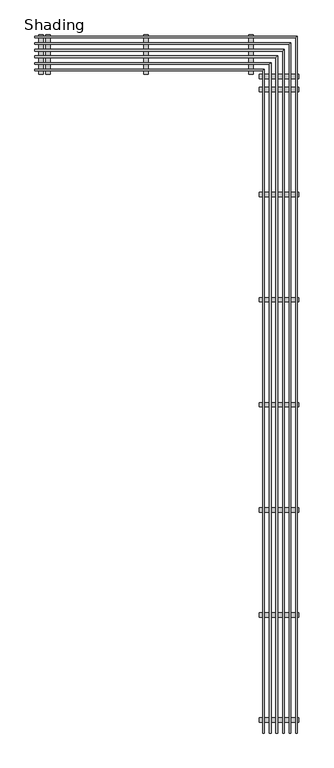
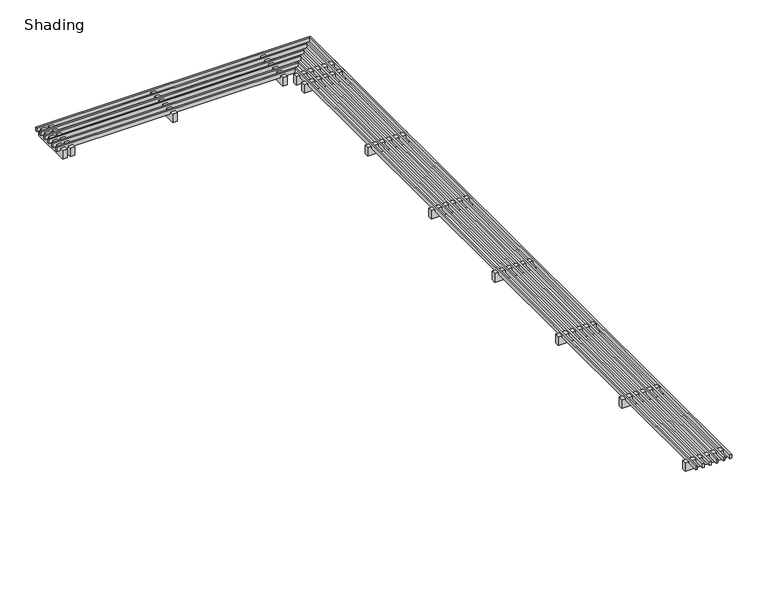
"""IFC4 building model written with IfcOpenShell, lengths in millimetres: railing geometry, Shading."""

from ifc_helpers import new_model, si_unit, frame, origin, place, context, project, spatial, polyline, outline, extrude, faceted_brep, source, transform, mapped, element, save


def shading_475ef65a(model_context):
    return source(origin(), model_context, "Body", "SolidModel", [
        faceted_brep([(941.7098336, 1511.1084583, 3092.45), (903.6098336, 1511.1084583, 3092.45), (903.6098336, 1511.1084583, 3003.55), (941.7098336, 1511.1084583, 3003.55), (941.7098336, 17684.5584583, 3003.55), (941.7098336, 17684.5584583, 3092.45), (903.6098336, 17646.4584583, 3003.55), (903.6098336, 17646.4584583, 3092.45), (-5147.9401664, 17684.5584583, 3092.45), (-5147.9401664, 17684.5584583, 3003.55), (-5147.9401664, 17646.4584583, 3003.55), (-5147.9401664, 17646.4584583, 3092.45)], [[[0, 1, 2, 3]], [[0, 3, 4, 5]], [[3, 2, 6, 4]], [[2, 1, 7, 6]], [[1, 0, 5, 7]], [[8, 9, 10, 11]], [[7, 5, 8, 11]], [[6, 7, 11, 10]], [[4, 6, 10, 9]], [[5, 4, 9, 8]]]),
        faceted_brep([(789.3098336, 1511.1084583, 3092.45), (751.2098336, 1511.1084583, 3092.45), (751.2098336, 1511.1084583, 3003.55), (789.3098336, 1511.1084583, 3003.55), (789.3098336, 17532.1584583, 3003.55), (789.3098336, 17532.1584583, 3092.45), (751.2098336, 17494.0584583, 3003.55), (751.2098336, 17494.0584583, 3092.45), (-5147.9401664, 17532.1584583, 3092.45), (-5147.9401664, 17532.1584583, 3003.55), (-5147.9401664, 17494.0584583, 3003.55), (-5147.9401664, 17494.0584583, 3092.45)], [[[0, 1, 2, 3]], [[0, 3, 4, 5]], [[3, 2, 6, 4]], [[2, 1, 7, 6]], [[1, 0, 5, 7]], [[8, 9, 10, 11]], [[7, 5, 8, 11]], [[6, 7, 11, 10]], [[4, 6, 10, 9]], [[5, 4, 9, 8]]]),
        faceted_brep([(636.9098336, 1511.1084583, 3092.45), (598.8098336, 1511.1084583, 3092.45), (598.8098336, 1511.1084583, 3003.55), (636.9098336, 1511.1084583, 3003.55), (636.9098336, 17379.7584583, 3003.55), (636.9098336, 17379.7584583, 3092.45), (598.8098336, 17341.6584583, 3003.55), (598.8098336, 17341.6584583, 3092.45), (-5147.9401664, 17379.7584583, 3092.45), (-5147.9401664, 17379.7584583, 3003.55), (-5147.9401664, 17341.6584583, 3003.55), (-5147.9401664, 17341.6584583, 3092.45)], [[[0, 1, 2, 3]], [[0, 3, 4, 5]], [[3, 2, 6, 4]], [[2, 1, 7, 6]], [[1, 0, 5, 7]], [[8, 9, 10, 11]], [[7, 5, 8, 11]], [[6, 7, 11, 10]], [[4, 6, 10, 9]], [[5, 4, 9, 8]]]),
        faceted_brep([(484.5098336, 1511.1084583, 3092.45), (446.4098336, 1511.1084583, 3092.45), (446.4098336, 1511.1084583, 3003.55), (484.5098336, 1511.1084583, 3003.55), (484.5098336, 17227.3584583, 3003.55), (484.5098336, 17227.3584583, 3092.45), (446.4098336, 17189.2584583, 3003.55), (446.4098336, 17189.2584583, 3092.45), (-5147.9401664, 17227.3584583, 3092.45), (-5147.9401664, 17227.3584583, 3003.55), (-5147.9401664, 17189.2584583, 3003.55), (-5147.9401664, 17189.2584583, 3092.45)], [[[0, 1, 2, 3]], [[0, 3, 4, 5]], [[3, 2, 6, 4]], [[2, 1, 7, 6]], [[1, 0, 5, 7]], [[8, 9, 10, 11]], [[7, 5, 8, 11]], [[6, 7, 11, 10]], [[4, 6, 10, 9]], [[5, 4, 9, 8]]]),
        faceted_brep([(332.1098336, 1511.1084583, 3092.45), (294.0098336, 1511.1084583, 3092.45), (294.0098336, 1511.1084583, 3003.55), (332.1098336, 1511.1084583, 3003.55), (332.1098336, 17074.9584583, 3003.55), (332.1098336, 17074.9584583, 3092.45), (294.0098336, 17036.8584583, 3003.55), (294.0098336, 17036.8584583, 3092.45), (-5147.9401664, 17074.9584583, 3092.45), (-5147.9401664, 17074.9584583, 3003.55), (-5147.9401664, 17036.8584583, 3003.55), (-5147.9401664, 17036.8584583, 3092.45)], [[[0, 1, 2, 3]], [[0, 3, 4, 5]], [[3, 2, 6, 4]], [[2, 1, 7, 6]], [[1, 0, 5, 7]], [[8, 9, 10, 11]], [[7, 5, 8, 11]], [[6, 7, 11, 10]], [[4, 6, 10, 9]], [[5, 4, 9, 8]]]),
        faceted_brep([(179.7098336, 1511.1084583, 3092.45), (141.6098336, 1511.1084583, 3092.45), (141.6098336, 1511.1084583, 3003.55), (179.7098336, 1511.1084583, 3003.55), (179.7098336, 16922.5584583, 3003.55), (179.7098336, 16922.5584583, 3092.45), (141.6098336, 16884.4584583, 3003.55), (141.6098336, 16884.4584583, 3092.45), (-5147.9401664, 16922.5584583, 3092.45), (-5147.9401664, 16922.5584583, 3003.55), (-5147.9401664, 16884.4584583, 3003.55), (-5147.9401664, 16884.4584583, 3092.45)], [[[0, 1, 2, 3]], [[0, 3, 4, 5]], [[3, 2, 6, 4]], [[2, 1, 7, 6]], [[1, 0, 5, 7]], [[8, 9, 10, 11]], [[7, 5, 8, 11]], [[6, 7, 11, 10]], [[4, 6, 10, 9]], [[5, 4, 9, 8]]]),
        extrude(outline(polyline([(-4957.4401664, 17716.3084583), (-4957.4401664, 16801.9084583), (-5059.0401664, 16801.9084583), (-5059.0401664, 17716.3084583), (-4957.4401664, 17716.3084583)])), frame((0.0, 0.0, 2844.8), z_axis=(0.0, 0.0, 1.0), x_axis=(1.0, 0.0, 0.0)), (0.0, 0.0, 1.0), 203.2),
        extrude(outline(polyline([(-2519.0401664, 17716.3084583), (-2519.0401664, 16801.9084583), (-2620.6401664, 16801.9084583), (-2620.6401664, 17716.3084583), (-2519.0401664, 17716.3084583)])), frame((0.0, 0.0, 2844.8), z_axis=(0.0, 0.0, 1.0), x_axis=(1.0, 0.0, 0.0)), (0.0, 0.0, 1.0), 203.2),
        extrude(outline(polyline([(-80.6401664, 17716.3084583), (-80.6401664, 16801.9084583), (-182.2401664, 16801.9084583), (-182.2401664, 17716.3084583), (-80.6401664, 17716.3084583)])), frame((0.0, 0.0, 2844.8), z_axis=(0.0, 0.0, 1.0), x_axis=(1.0, 0.0, 0.0)), (0.0, 0.0, 1.0), 203.2),
        extrude(outline(polyline([(973.4598336, 16395.5084583), (59.0598336, 16395.5084583), (59.0598336, 16497.1084583), (973.4598336, 16497.1084583), (973.4598336, 16395.5084583)])), frame((0.0, 0.0, 2844.8), z_axis=(0.0, 0.0, 1.0), x_axis=(1.0, 0.0, 0.0)), (0.0, 0.0, 1.0), 203.2),
        extrude(outline(polyline([(973.4598336, 13957.1084583), (59.0598336, 13957.1084583), (59.0598336, 14058.7084583), (973.4598336, 14058.7084583), (973.4598336, 13957.1084583)])), frame((0.0, 0.0, 2844.8), z_axis=(0.0, 0.0, 1.0), x_axis=(1.0, 0.0, 0.0)), (0.0, 0.0, 1.0), 203.2),
        extrude(outline(polyline([(973.4598336, 11518.7084583), (59.0598336, 11518.7084583), (59.0598336, 11620.3084583), (973.4598336, 11620.3084583), (973.4598336, 11518.7084583)])), frame((0.0, 0.0, 2844.8), z_axis=(0.0, 0.0, 1.0), x_axis=(1.0, 0.0, 0.0)), (0.0, 0.0, 1.0), 203.2),
        extrude(outline(polyline([(973.4598336, 9080.3084583), (59.0598336, 9080.3084583), (59.0598336, 9181.9084583), (973.4598336, 9181.9084583), (973.4598336, 9080.3084583)])), frame((0.0, 0.0, 2844.8), z_axis=(0.0, 0.0, 1.0), x_axis=(1.0, 0.0, 0.0)), (0.0, 0.0, 1.0), 203.2),
        extrude(outline(polyline([(973.4598336, 6641.9084583), (59.0598336, 6641.9084583), (59.0598336, 6743.5084583), (973.4598336, 6743.5084583), (973.4598336, 6641.9084583)])), frame((0.0, 0.0, 2844.8), z_axis=(0.0, 0.0, 1.0), x_axis=(1.0, 0.0, 0.0)), (0.0, 0.0, 1.0), 203.2),
        extrude(outline(polyline([(973.4598336, 4203.5084583), (59.0598336, 4203.5084583), (59.0598336, 4305.1084583), (973.4598336, 4305.1084583), (973.4598336, 4203.5084583)])), frame((0.0, 0.0, 2844.8), z_axis=(0.0, 0.0, 1.0), x_axis=(1.0, 0.0, 0.0)), (0.0, 0.0, 1.0), 203.2),
        extrude(outline(polyline([(973.4598336, 1765.1084583), (59.0598336, 1765.1084583), (59.0598336, 1866.7084583), (973.4598336, 1866.7084583), (973.4598336, 1765.1084583)])), frame((0.0, 0.0, 2844.8), z_axis=(0.0, 0.0, 1.0), x_axis=(1.0, 0.0, 0.0)), (0.0, 0.0, 1.0), 203.2),
        extrude(outline(polyline([(973.4598336, 16700.3084583), (59.0598336, 16700.3084583), (59.0598336, 16801.9084583), (973.4598336, 16801.9084583), (973.4598336, 16700.3084583)])), frame((0.0, 0.0, 2844.8), z_axis=(0.0, 0.0, 1.0), x_axis=(1.0, 0.0, 0.0)), (0.0, 0.0, 1.0), 203.2),
        extrude(outline(polyline([(-4792.3401664, 17716.3084583), (-4792.3401664, 16801.9084583), (-4893.9401664, 16801.9084583), (-4893.9401664, 17716.3084583), (-4792.3401664, 17716.3084583)])), frame((0.0, 0.0, 2844.8), z_axis=(0.0, 0.0, 1.0), x_axis=(1.0, 0.0, 0.0)), (0.0, 0.0, 1.0), 203.2),
        extrude(outline(polyline([(973.4598336, 1765.1084583), (59.0598336, 1765.1084583), (59.0598336, 1866.7084583), (973.4598336, 1866.7084583), (973.4598336, 1765.1084583)])), frame((0.0, 0.0, 2844.8), z_axis=(0.0, 0.0, 1.0), x_axis=(1.0, 0.0, 0.0)), (0.0, 0.0, 1.0), 203.2),
    ])


if __name__ == "__main__":
    model = new_model("IFC4")
    model_context = context("Model", 3, world=origin())
    ifc_project = project(units=[si_unit("LENGTHUNIT", "METRE", prefix="MILLI")], contexts=[model_context])
    site = spatial("IfcSite", under=ifc_project)
    building = spatial("IfcBuilding", under=site)
    placement = place(None, origin())
    shading_shape = shading_475ef65a(model_context)
    element("IfcRailing", 1, ObjectType="Shading", at=placement, inside=building, context=model_context, shape_type="MappedRepresentation", body=[
        mapped(shading_shape, transform((0.0, 0.0, 0.0), x_axis=(1.0, 0.0, 0.0), y_axis=(0.0, 1.0, 0.0), z_axis=(0.0, 0.0, 1.0))),
    ])
    save(model, "model.ifc")
